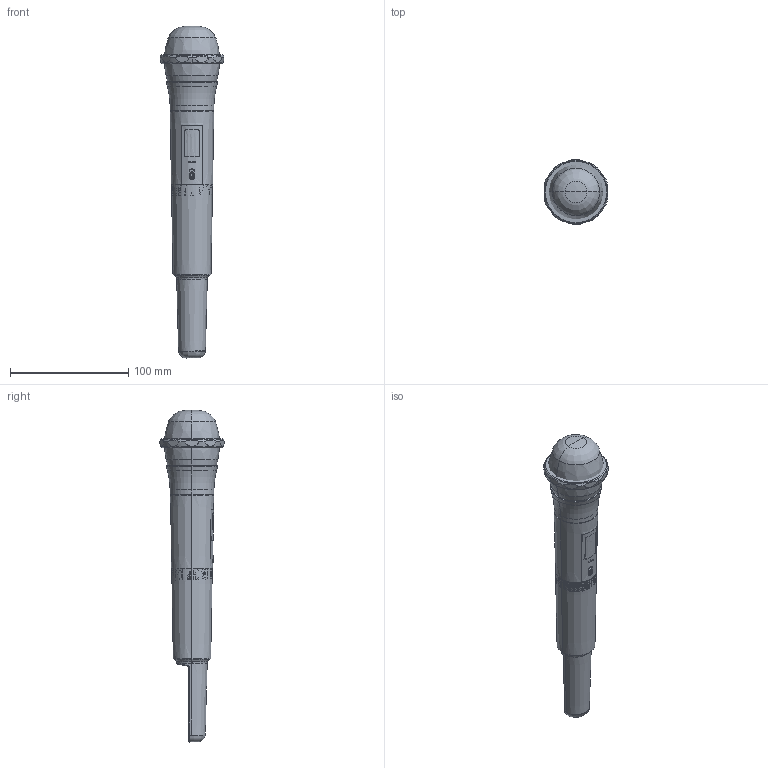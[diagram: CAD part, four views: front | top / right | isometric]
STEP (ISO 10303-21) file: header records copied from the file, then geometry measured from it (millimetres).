
FILE_DESCRIPTION((''),'2;1');
FILE_NAME('LEVE0CFCAC1AR89E_ASM','2024-03-30T17:40:42',('DELL'),(''),'CREO PARAMETRIC BY PTC INC, 2022073','CREO PARAMETRIC BY PTC INC, 2022073','');
FILE_SCHEMA(('CONFIG_CONTROL_DESIGN'));
Products named in the file (48): SWITCH; BODY_TOP; BODY_BOTTOM; BODY8; BODY9; BODY11; ANTENNA_COVER; BODY19; BODY20; BODY22; BODY23; DISPLAY_LENS; LIGHTPIPE; CONTROL_PANEL; FLEX_CABLE; LEVE0CFCAC1AR89E_1; LEVE0CFCAC1AR89E_2; PCB_TYPE_C; B2B_CONN; USB4085-5789; USB4085-5788; USB_PCBA_ASM; PCB_CHARGER; 4-PIN_CHARGER; B2B_CONN__1_; CHARGE_PCBA_ASM; ACTUATOR; BODY21; PCB_MAIN; 3-PIN_CONN; PCB_TOP; BATTERY_CONTACT_COIL; WELDING; WELDING__1_; WELDING__2_; ANTENNA; BATTERY_CONTACT_LEAF; LED; MAIN_PCBA_ASM; BODY27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
Assembly tree (47 placements, depth 3):
  LEVE0CFCAC1AR89E_ASM
    SWITCH
    BODY_TOP
    BODY_BOTTOM
    BODY8
    BODY9
    BODY11
    ANTENNA_COVER
    BODY19
    BODY20
    BODY22
    BODY23
    DISPLAY_LENS
    LIGHTPIPE
    CONTROL_PANEL
    FLEX_CABLE
    LEVE0CFCAC1AR89E_1
    LEVE0CFCAC1AR89E_2
    USB_PCBA_ASM
      PCB_TYPE_C
      B2B_CONN
      USB4085-5789
      USB4085-5788
    CHARGE_PCBA_ASM
      PCB_CHARGER
      4-PIN_CHARGER
      B2B_CONN__1_
    MAIN_PCBA_ASM
      ACTUATOR
      BODY21
      PCB_MAIN
      3-PIN_CONN
      PCB_TOP
      BATTERY_CONTACT_COIL
      WELDING
      WELDING__1_
      WELDING__2_
      ANTENNA
      BATTERY_CONTACT_LEAF
      LED
    MIC_HEAD_ASM
      BODY27
      BODY75
      BODY76
      BODY77
      BODY78
      BODY26
      BODY25
Bounding box: 53.81 x 55.21 x 281.23 mm (x, y, z)
Volume: 157235.2 mm3; surface area: 120156.1 mm2
Topology: 39 solids, 55 shells, 7059 faces, 20405 edges, 13505 vertices
Faces by surface type: plane 5001, cylinder 1164, bspline 326, extrusion 249, cone 186, torus 77, sphere 52, revolution 4
Entity records: 271595 total; most frequent: CARTESIAN_POINT 88125, ORIENTED_EDGE 40645, DIRECTION 33923, EDGE_CURVE 20377, VECTOR 15393, LINE 15144, VERTEX_POINT 13505, AXIS2_PLACEMENT_3D 9263
